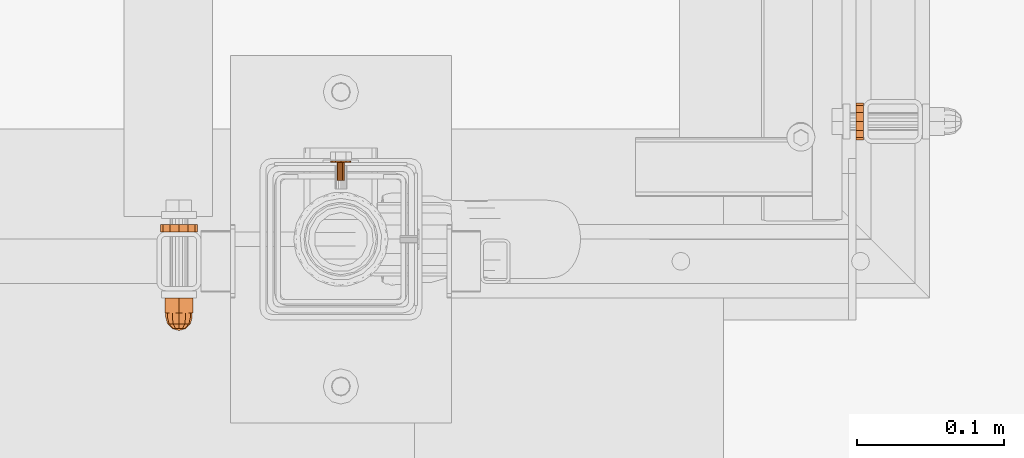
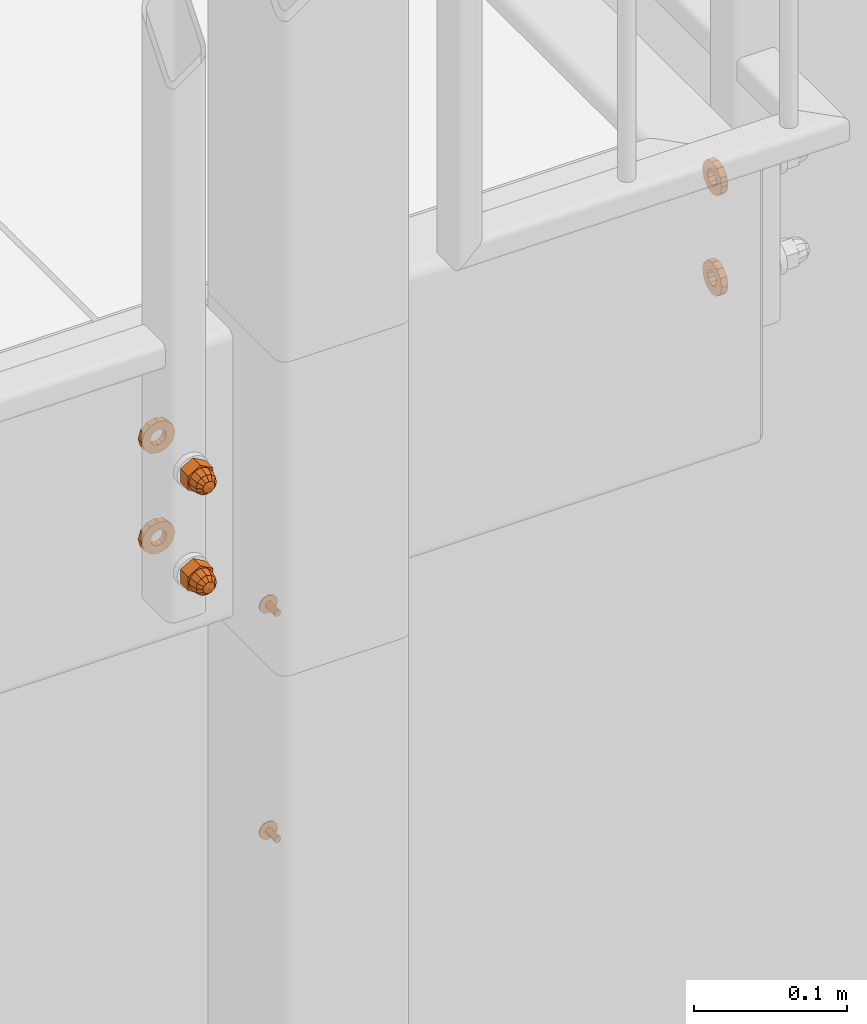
# One storey, part 125 of 162: 8 proxies.
"""IFC2X3 building model written with IfcOpenShell, lengths in millimetres."""

from ifc_helpers import new_model, entity, si_unit, converted_unit, origin_with_axes, place, context, project, spatial, faceted_brep, material, element, save


model = new_model("IFC2X3")

# Units and contexts
model_context = context("Model", 3, precision=1e-09, world=origin_with_axes())
ifc_project = project(units=[si_unit("LENGTHUNIT", "METRE", prefix="MILLI"), si_unit("AREAUNIT", "SQUARE_METRE"), si_unit("VOLUMEUNIT", "CUBIC_METRE"), converted_unit("PLANEANGLEUNIT", "DEGREE", entity("IfcPlaneAngleMeasure", 0.01745329), si_unit("PLANEANGLEUNIT", "RADIAN"), dimensions=[0, 0, 0, 0, 0, 0, 0])], contexts=[model_context])

# Site, building, storey
site_placement = place(None, origin_with_axes())
site = spatial("IfcSite", under=ifc_project, at=site_placement, Name="Hermannstra?e 1a, 60318 Frankfurt", CompositionType="ELEMENT")
building_placement = place(site_placement, origin_with_axes())
building = spatial("IfcBuilding", under=site, at=building_placement, Name="Struktur 1", CompositionType="ELEMENT")
storey_placement = place(building_placement, origin_with_axes())
storey = spatial("IfcBuildingStorey", under=building, at=storey_placement, Name="Default Storey", CompositionType="ELEMENT", Elevation=0.0)

# Proxies
ifc_material = material(Name="Kein")
proxy_1_placement = place(None, origin_with_axes())
element("IfcBuildingElementProxy", 1, at=proxy_1_placement, inside=storey, material=ifc_material, ObjectType="-", context=model_context, shape_type="Brep", body=[
    faceted_brep([(5466.30936482, 1582.609373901, 7340.0), (5466.30936482, 1583.609373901, 7340.0), (5467.247186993, 1583.609373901, 7336.5), (5467.247186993, 1582.609373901, 7336.5), (5467.247186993, 1582.609373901, 7343.5), (5467.247186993, 1583.609373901, 7343.5), (5476.80936482, 1583.609373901, 7346.062177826), (5479.371542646, 1583.609373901, 7343.5), (5480.30936482, 1583.609373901, 7340.0), (5479.371542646, 1583.609373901, 7336.5), (5476.80936482, 1583.609373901, 7333.937822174), (5473.30936482, 1583.609373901, 7333.0), (5469.80936482, 1583.609373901, 7333.937822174), (5469.80936482, 1583.609373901, 7346.062177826), (5473.30936482, 1583.609373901, 7347.0), (5476.80936482, 1582.609373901, 7333.937822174), (5479.371542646, 1582.609373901, 7336.5), (5480.30936482, 1582.609373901, 7340.0), (5479.371542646, 1582.609373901, 7343.5), (5476.80936482, 1582.609373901, 7346.062177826), (5473.30936482, 1582.609373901, 7347.0), (5469.80936482, 1582.609373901, 7346.062177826), (5469.80936482, 1582.609373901, 7333.937822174), (5473.30936482, 1582.609373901, 7333.0)], [[[0, 1, 2, 3]], [[1, 0, 4, 5]], [[6, 7, 8, 9, 10, 11, 12, 2, 1, 5, 13, 14]], [[15, 16, 17, 18, 19, 20, 21, 4, 0, 3, 22, 23]], [[3, 2, 12, 22]], [[5, 4, 21, 13]], [[11, 23, 22, 12]], [[10, 15, 23, 11]], [[13, 21, 20, 14]], [[16, 9, 8, 17]], [[15, 10, 9, 16]], [[17, 8, 7, 18]], [[14, 20, 19, 6]], [[18, 7, 6, 19]]]),
    faceted_brep([(5470.80936482, 1570.609373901, 7340.0), (5470.80936482, 1582.609373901, 7340.0), (5471.14430131, 1582.609373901, 7338.75), (5471.14430131, 1570.609373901, 7338.75), (5471.14430131, 1570.609373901, 7341.25), (5471.14430131, 1582.609373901, 7341.25), (5474.55936482, 1582.609373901, 7342.165063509), (5475.474428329, 1582.609373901, 7341.25), (5475.80936482, 1582.609373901, 7340.0), (5475.474428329, 1582.609373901, 7338.75), (5474.55936482, 1582.609373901, 7337.834936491), (5473.30936482, 1582.609373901, 7337.5), (5472.05936482, 1582.609373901, 7337.834936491), (5472.05936482, 1582.609373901, 7342.165063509), (5473.30936482, 1582.609373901, 7342.5), (5474.55936482, 1570.609373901, 7337.834936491), (5475.474428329, 1570.609373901, 7338.75), (5475.80936482, 1570.609373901, 7340.0), (5475.474428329, 1570.609373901, 7341.25), (5474.55936482, 1570.609373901, 7342.165063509), (5473.30936482, 1570.609373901, 7342.5), (5472.05936482, 1570.609373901, 7342.165063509), (5472.05936482, 1570.609373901, 7337.834936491), (5473.30936482, 1570.609373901, 7337.5)], [[[0, 1, 2, 3]], [[1, 0, 4, 5]], [[6, 7, 8, 9, 10, 11, 12, 2, 1, 5, 13, 14]], [[15, 16, 17, 18, 19, 20, 21, 4, 0, 3, 22, 23]], [[3, 2, 12, 22]], [[5, 4, 21, 13]], [[11, 23, 22, 12]], [[10, 15, 23, 11]], [[13, 21, 20, 14]], [[16, 9, 8, 17]], [[15, 10, 9, 16]], [[17, 8, 7, 18]], [[14, 20, 19, 6]], [[18, 7, 6, 19]]]),
])
proxy_2_placement = place(None, origin_with_axes())
element("IfcBuildingElementProxy", 2, at=proxy_2_placement, inside=storey, material=ifc_material, ObjectType="-", context=model_context, shape_type="Brep", body=[
    faceted_brep([(5466.30936482, 1582.609373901, 7520.0), (5466.30936482, 1583.609373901, 7520.0), (5467.247186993, 1583.609373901, 7516.5), (5467.247186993, 1582.609373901, 7516.5), (5467.247186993, 1582.609373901, 7523.5), (5467.247186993, 1583.609373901, 7523.5), (5476.80936482, 1583.609373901, 7526.062177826), (5479.371542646, 1583.609373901, 7523.5), (5480.30936482, 1583.609373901, 7520.0), (5479.371542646, 1583.609373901, 7516.5), (5476.80936482, 1583.609373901, 7513.937822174), (5473.30936482, 1583.609373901, 7513.0), (5469.80936482, 1583.609373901, 7513.937822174), (5469.80936482, 1583.609373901, 7526.062177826), (5473.30936482, 1583.609373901, 7527.0), (5476.80936482, 1582.609373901, 7513.937822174), (5479.371542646, 1582.609373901, 7516.5), (5480.30936482, 1582.609373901, 7520.0), (5479.371542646, 1582.609373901, 7523.5), (5476.80936482, 1582.609373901, 7526.062177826), (5473.30936482, 1582.609373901, 7527.0), (5469.80936482, 1582.609373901, 7526.062177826), (5469.80936482, 1582.609373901, 7513.937822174), (5473.30936482, 1582.609373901, 7513.0)], [[[0, 1, 2, 3]], [[1, 0, 4, 5]], [[6, 7, 8, 9, 10, 11, 12, 2, 1, 5, 13, 14]], [[15, 16, 17, 18, 19, 20, 21, 4, 0, 3, 22, 23]], [[3, 2, 12, 22]], [[5, 4, 21, 13]], [[11, 23, 22, 12]], [[10, 15, 23, 11]], [[13, 21, 20, 14]], [[16, 9, 8, 17]], [[15, 10, 9, 16]], [[17, 8, 7, 18]], [[14, 20, 19, 6]], [[18, 7, 6, 19]]]),
    faceted_brep([(5470.80936482, 1570.609373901, 7520.0), (5470.80936482, 1582.609373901, 7520.0), (5471.14430131, 1582.609373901, 7518.75), (5471.14430131, 1570.609373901, 7518.75), (5471.14430131, 1570.609373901, 7521.25), (5471.14430131, 1582.609373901, 7521.25), (5474.55936482, 1582.609373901, 7522.165063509), (5475.474428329, 1582.609373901, 7521.25), (5475.80936482, 1582.609373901, 7520.0), (5475.474428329, 1582.609373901, 7518.75), (5474.55936482, 1582.609373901, 7517.834936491), (5473.30936482, 1582.609373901, 7517.5), (5472.05936482, 1582.609373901, 7517.834936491), (5472.05936482, 1582.609373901, 7522.165063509), (5473.30936482, 1582.609373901, 7522.5), (5474.55936482, 1570.609373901, 7517.834936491), (5475.474428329, 1570.609373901, 7518.75), (5475.80936482, 1570.609373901, 7520.0), (5475.474428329, 1570.609373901, 7521.25), (5474.55936482, 1570.609373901, 7522.165063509), (5473.30936482, 1570.609373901, 7522.5), (5472.05936482, 1570.609373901, 7522.165063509), (5472.05936482, 1570.609373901, 7517.834936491), (5473.30936482, 1570.609373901, 7517.5)], [[[0, 1, 2, 3]], [[1, 0, 4, 5]], [[6, 7, 8, 9, 10, 11, 12, 2, 1, 5, 13, 14]], [[15, 16, 17, 18, 19, 20, 21, 4, 0, 3, 22, 23]], [[3, 2, 12, 22]], [[5, 4, 21, 13]], [[11, 23, 22, 12]], [[10, 15, 23, 11]], [[13, 21, 20, 14]], [[16, 9, 8, 17]], [[15, 10, 9, 16]], [[17, 8, 7, 18]], [[14, 20, 19, 6]], [[18, 7, 6, 19]]]),
])
proxy_3_placement = place(None, origin_with_axes())
element("IfcBuildingElementProxy", 3, at=proxy_3_placement, inside=storey, material=ifc_material, ObjectType="-", context=model_context, shape_type="Brep", body=[
    faceted_brep([(5352.484047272, 1535.609373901, 7633.75), (5357.05936482, 1535.609373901, 7629.174682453), (5363.30936482, 1535.609373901, 7627.5), (5369.55936482, 1535.609373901, 7629.174682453), (5374.134682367, 1535.609373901, 7633.75), (5375.80936482, 1535.609373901, 7640.0), (5374.134682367, 1535.609373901, 7646.25), (5369.55936482, 1535.609373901, 7650.825317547), (5363.30936482, 1535.609373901, 7652.5), (5357.05936482, 1535.609373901, 7650.825317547), (5352.484047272, 1535.609373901, 7646.25), (5350.80936482, 1535.609373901, 7640.0), (5363.30936482, 1535.609373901, 7634.0), (5360.30936482, 1535.609373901, 7634.803847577), (5358.113212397, 1535.609373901, 7637.0), (5357.30936482, 1535.609373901, 7640.0), (5358.113212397, 1535.609373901, 7643.0), (5360.30936482, 1535.609373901, 7645.196152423), (5363.30936482, 1535.609373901, 7646.0), (5366.30936482, 1535.609373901, 7645.196152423), (5368.505517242, 1535.609373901, 7643.0), (5369.30936482, 1535.609373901, 7640.0), (5368.505517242, 1535.609373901, 7637.0), (5366.30936482, 1535.609373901, 7634.803847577), (5352.484047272, 1540.609373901, 7633.75), (5357.05936482, 1540.609373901, 7629.174682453), (5350.80936482, 1540.609373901, 7640.0), (5352.484047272, 1540.609373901, 7646.25), (5357.05936482, 1540.609373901, 7650.825317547), (5363.30936482, 1540.609373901, 7652.5), (5369.55936482, 1540.609373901, 7650.825317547), (5374.134682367, 1540.609373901, 7646.25), (5375.80936482, 1540.609373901, 7640.0), (5374.134682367, 1540.609373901, 7633.75), (5369.55936482, 1540.609373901, 7629.174682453), (5363.30936482, 1540.609373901, 7627.5), (5358.113212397, 1540.609373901, 7643.0), (5357.30936482, 1540.609373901, 7640.0), (5358.113212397, 1540.609373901, 7637.0), (5360.30936482, 1540.609373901, 7634.803847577), (5363.30936482, 1540.609373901, 7634.0), (5366.30936482, 1540.609373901, 7634.803847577), (5368.505517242, 1540.609373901, 7637.0), (5369.30936482, 1540.609373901, 7640.0), (5368.505517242, 1540.609373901, 7643.0), (5366.30936482, 1540.609373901, 7645.196152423), (5363.30936482, 1540.609373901, 7646.0), (5360.30936482, 1540.609373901, 7645.196152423)], [[[0, 1, 2, 3, 4, 5, 6, 7, 8, 9, 10, 11], [12, 13, 14, 15, 16, 17, 18, 19, 20, 21, 22, 23]], [[0, 24, 25, 1]], [[24, 26, 27, 28, 29, 30, 31, 32, 33, 34, 35, 25], [36, 37, 38, 39, 40, 41, 42, 43, 44, 45, 46, 47]], [[38, 14, 13, 39]], [[24, 0, 11, 26]], [[14, 38, 37, 15]], [[39, 13, 12, 40]], [[1, 25, 35, 2]], [[26, 11, 10, 27]], [[15, 37, 36, 16]], [[40, 12, 23, 41]], [[2, 35, 34, 3]], [[27, 10, 9, 28]], [[16, 36, 47, 17]], [[22, 42, 41, 23]], [[3, 34, 33, 4]], [[42, 22, 21, 43]], [[28, 9, 8, 29]], [[17, 47, 46, 18]], [[20, 44, 43, 21]], [[4, 33, 32, 5]], [[45, 19, 18, 46]], [[44, 20, 19, 45]], [[29, 8, 7, 30]], [[5, 32, 31, 6]], [[30, 7, 6, 31]]]),
])
proxy_4_placement = place(None, origin_with_axes())
element("IfcBuildingElementProxy", 4, at=proxy_4_placement, inside=storey, material=ifc_material, ObjectType="-", context=model_context, shape_type="Brep", body=[
    faceted_brep([(5352.484047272, 1535.609373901, 7713.75), (5357.05936482, 1535.609373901, 7709.174682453), (5363.30936482, 1535.609373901, 7707.5), (5369.55936482, 1535.609373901, 7709.174682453), (5374.134682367, 1535.609373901, 7713.75), (5375.80936482, 1535.609373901, 7720.0), (5374.134682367, 1535.609373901, 7726.25), (5369.55936482, 1535.609373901, 7730.825317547), (5363.30936482, 1535.609373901, 7732.5), (5357.05936482, 1535.609373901, 7730.825317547), (5352.484047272, 1535.609373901, 7726.25), (5350.80936482, 1535.609373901, 7720.0), (5363.30936482, 1535.609373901, 7714.0), (5360.30936482, 1535.609373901, 7714.803847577), (5358.113212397, 1535.609373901, 7717.0), (5357.30936482, 1535.609373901, 7720.0), (5358.113212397, 1535.609373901, 7723.0), (5360.30936482, 1535.609373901, 7725.196152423), (5363.30936482, 1535.609373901, 7726.0), (5366.30936482, 1535.609373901, 7725.196152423), (5368.505517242, 1535.609373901, 7723.0), (5369.30936482, 1535.609373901, 7720.0), (5368.505517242, 1535.609373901, 7717.0), (5366.30936482, 1535.609373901, 7714.803847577), (5352.484047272, 1540.609373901, 7713.75), (5357.05936482, 1540.609373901, 7709.174682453), (5350.80936482, 1540.609373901, 7720.0), (5352.484047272, 1540.609373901, 7726.25), (5357.05936482, 1540.609373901, 7730.825317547), (5363.30936482, 1540.609373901, 7732.5), (5369.55936482, 1540.609373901, 7730.825317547), (5374.134682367, 1540.609373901, 7726.25), (5375.80936482, 1540.609373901, 7720.0), (5374.134682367, 1540.609373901, 7713.75), (5369.55936482, 1540.609373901, 7709.174682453), (5363.30936482, 1540.609373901, 7707.5), (5358.113212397, 1540.609373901, 7723.0), (5357.30936482, 1540.609373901, 7720.0), (5358.113212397, 1540.609373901, 7717.0), (5360.30936482, 1540.609373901, 7714.803847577), (5363.30936482, 1540.609373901, 7714.0), (5366.30936482, 1540.609373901, 7714.803847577), (5368.505517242, 1540.609373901, 7717.0), (5369.30936482, 1540.609373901, 7720.0), (5368.505517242, 1540.609373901, 7723.0), (5366.30936482, 1540.609373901, 7725.196152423), (5363.30936482, 1540.609373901, 7726.0), (5360.30936482, 1540.609373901, 7725.196152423)], [[[0, 1, 2, 3, 4, 5, 6, 7, 8, 9, 10, 11], [12, 13, 14, 15, 16, 17, 18, 19, 20, 21, 22, 23]], [[0, 24, 25, 1]], [[24, 26, 27, 28, 29, 30, 31, 32, 33, 34, 35, 25], [36, 37, 38, 39, 40, 41, 42, 43, 44, 45, 46, 47]], [[38, 14, 13, 39]], [[24, 0, 11, 26]], [[14, 38, 37, 15]], [[39, 13, 12, 40]], [[1, 25, 35, 2]], [[26, 11, 10, 27]], [[15, 37, 36, 16]], [[40, 12, 23, 41]], [[2, 35, 34, 3]], [[27, 10, 9, 28]], [[16, 36, 47, 17]], [[22, 42, 41, 23]], [[3, 34, 33, 4]], [[42, 22, 21, 43]], [[28, 9, 8, 29]], [[17, 47, 46, 18]], [[20, 44, 43, 21]], [[4, 33, 32, 5]], [[45, 19, 18, 46]], [[44, 20, 19, 45]], [[29, 8, 7, 30]], [[5, 32, 31, 6]], [[30, 7, 6, 31]]]),
])
proxy_5_placement = place(None, origin_with_axes())
element("IfcBuildingElementProxy", 5, at=proxy_5_placement, inside=storey, material=ifc_material, ObjectType="-", context=model_context, shape_type="Brep", body=[
    faceted_brep([(5357.30936482, 1490.609373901, 7720.0), (5357.30936482, 1480.609373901, 7720.0), (5358.113212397, 1480.609373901, 7717.0), (5358.113212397, 1490.609373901, 7717.0), (5360.30936482, 1480.609373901, 7714.803847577), (5360.30936482, 1490.609373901, 7714.803847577), (5358.113212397, 1490.609373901, 7723.0), (5358.113212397, 1480.609373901, 7723.0), (5353.829495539, 1490.609373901, 7725.473205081), (5363.30936482, 1490.609373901, 7730.946410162), (5372.7892341, 1490.609373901, 7725.473205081), (5372.7892341, 1490.609373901, 7714.526794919), (5363.30936482, 1490.609373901, 7709.053589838), (5353.829495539, 1490.609373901, 7714.526794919), (5360.30936482, 1490.609373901, 7725.196152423), (5363.30936482, 1490.609373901, 7714.0), (5366.30936482, 1490.609373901, 7714.803847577), (5368.505517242, 1490.609373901, 7717.0), (5369.30936482, 1490.609373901, 7720.0), (5368.505517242, 1490.609373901, 7723.0), (5366.30936482, 1490.609373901, 7725.196152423), (5363.30936482, 1490.609373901, 7726.0), (5363.30936482, 1480.609373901, 7730.946410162), (5353.829495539, 1480.609373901, 7725.473205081), (5353.829495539, 1480.609373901, 7714.526794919), (5363.30936482, 1480.609373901, 7709.053589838), (5372.7892341, 1480.609373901, 7714.526794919), (5372.7892341, 1480.609373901, 7725.473205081), (5360.30936482, 1480.609373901, 7725.196152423), (5363.30936482, 1480.609373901, 7726.0), (5366.30936482, 1480.609373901, 7725.196152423), (5368.505517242, 1480.609373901, 7723.0), (5369.30936482, 1480.609373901, 7720.0), (5368.505517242, 1480.609373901, 7717.0), (5366.30936482, 1480.609373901, 7714.803847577), (5363.30936482, 1480.609373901, 7714.0)], [[[0, 1, 2, 3]], [[3, 2, 4, 5]], [[1, 0, 6, 7]], [[8, 9, 10, 11, 12, 13], [14, 6, 0, 3, 5, 15, 16, 17, 18, 19, 20, 21]], [[22, 23, 24, 25, 26, 27], [1, 7, 28, 29, 30, 31, 32, 33, 34, 35, 4, 2]], [[7, 6, 14, 28]], [[24, 23, 8, 13]], [[5, 4, 35, 15]], [[13, 12, 25, 24]], [[28, 14, 21, 29]], [[23, 22, 9, 8]], [[15, 35, 34, 16]], [[12, 11, 26, 25]], [[29, 21, 20, 30]], [[22, 27, 10, 9]], [[16, 34, 33, 17]], [[27, 26, 11, 10]], [[30, 20, 19, 31]], [[17, 33, 32, 18]], [[31, 19, 18, 32]]]),
    faceted_brep([(5363.30936482, 1480.609373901, 7729.0), (5363.30936482, 1477.609373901, 7729.0), (5367.80936482, 1477.609373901, 7727.794228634), (5367.80936482, 1480.609373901, 7727.794228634), (5358.80936482, 1480.609373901, 7727.794228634), (5358.80936482, 1477.609373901, 7727.794228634), (5355.515136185, 1477.609373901, 7715.5), (5358.80936482, 1477.609373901, 7712.205771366), (5363.30936482, 1477.609373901, 7711.0), (5367.80936482, 1477.609373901, 7712.205771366), (5371.103593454, 1477.609373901, 7715.5), (5372.30936482, 1477.609373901, 7720.0), (5371.103593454, 1477.609373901, 7724.5), (5355.515136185, 1477.609373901, 7724.5), (5354.30936482, 1477.609373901, 7720.0), (5371.103593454, 1480.609373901, 7715.5), (5367.80936482, 1480.609373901, 7712.205771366), (5363.30936482, 1480.609373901, 7711.0), (5358.80936482, 1480.609373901, 7712.205771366), (5355.515136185, 1480.609373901, 7715.5), (5354.30936482, 1480.609373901, 7720.0), (5355.515136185, 1480.609373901, 7724.5), (5371.103593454, 1480.609373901, 7724.5), (5372.30936482, 1480.609373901, 7720.0)], [[[0, 1, 2, 3]], [[1, 0, 4, 5]], [[6, 7, 8, 9, 10, 11, 12, 2, 1, 5, 13, 14]], [[15, 16, 17, 18, 19, 20, 21, 4, 0, 3, 22, 23]], [[3, 2, 12, 22]], [[5, 4, 21, 13]], [[22, 12, 11, 23]], [[13, 21, 20, 14]], [[7, 18, 17, 8]], [[19, 6, 14, 20]], [[18, 7, 6, 19]], [[23, 11, 10, 15]], [[8, 17, 16, 9]], [[15, 10, 9, 16]]]),
    faceted_brep([(5355.515136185, 1477.609373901, 7724.5), (5356.55936482, 1473.109373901, 7723.897114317), (5359.412250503, 1473.109373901, 7726.75), (5358.80936482, 1477.609373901, 7727.794228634), (5371.103593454, 1477.609373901, 7715.5), (5367.80936482, 1477.609373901, 7712.205771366), (5363.30936482, 1477.609373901, 7711.0), (5358.80936482, 1477.609373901, 7712.205771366), (5355.515136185, 1477.609373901, 7715.5), (5354.30936482, 1477.609373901, 7720.0), (5363.30936482, 1477.609373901, 7729.0), (5367.80936482, 1477.609373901, 7727.794228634), (5371.103593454, 1477.609373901, 7724.5), (5372.30936482, 1477.609373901, 7720.0), (5363.30936482, 1473.109373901, 7727.794228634), (5355.515136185, 1473.109373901, 7720.0), (5358.80936482, 1469.815145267, 7720.0), (5359.412250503, 1469.815145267, 7722.25), (5367.206479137, 1473.109373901, 7726.75), (5361.05936482, 1469.815145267, 7723.897114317), (5356.55936482, 1473.109373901, 7716.102885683), (5359.412250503, 1469.815145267, 7717.75), (5363.30936482, 1469.815145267, 7724.5), (5363.30936482, 1468.609373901, 7720.0), (5359.412250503, 1473.109373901, 7713.25), (5361.05936482, 1469.815145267, 7716.102885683), (5363.30936482, 1473.109373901, 7712.205771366), (5370.05936482, 1473.109373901, 7723.897114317), (5365.55936482, 1469.815145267, 7723.897114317), (5363.30936482, 1469.815145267, 7715.5), (5367.206479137, 1473.109373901, 7713.25), (5365.55936482, 1469.815145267, 7716.102885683), (5371.103593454, 1473.109373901, 7720.0), (5367.206479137, 1469.815145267, 7722.25), (5370.05936482, 1473.109373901, 7716.102885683), (5367.206479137, 1469.815145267, 7717.75), (5367.80936482, 1469.815145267, 7720.0)], [[[0, 1, 2, 3]], [[4, 5, 6, 7, 8, 9, 0, 3, 10, 11, 12, 13]], [[3, 2, 14, 10]], [[15, 16, 17, 1]], [[1, 0, 9, 15]], [[10, 14, 18, 11]], [[1, 17, 19, 2]], [[16, 15, 20, 21]], [[2, 19, 22, 14]], [[23, 17, 16]], [[24, 25, 21, 20]], [[23, 16, 21]], [[24, 7, 6, 26]], [[20, 8, 7, 24]], [[15, 9, 8, 20]], [[11, 18, 27, 12]], [[14, 22, 28, 18]], [[23, 19, 17]], [[26, 29, 25, 24]], [[23, 21, 25]], [[23, 22, 19]], [[26, 6, 5, 30]], [[29, 26, 30, 31]], [[23, 25, 29]], [[12, 27, 32, 13]], [[18, 28, 33, 27]], [[23, 28, 22]], [[23, 29, 31]], [[23, 33, 28]], [[30, 5, 4, 34]], [[31, 30, 34, 35]], [[23, 31, 35]], [[13, 32, 34, 4]], [[27, 33, 36, 32]], [[23, 36, 33]], [[23, 35, 36]], [[35, 34, 32, 36]]]),
])
proxy_6_placement = place(None, origin_with_axes())
element("IfcBuildingElementProxy", 6, at=proxy_6_placement, inside=storey, material=ifc_material, ObjectType="-", context=model_context, shape_type="Brep", body=[
    faceted_brep([(5357.30936482, 1490.609373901, 7640.0), (5357.30936482, 1480.609373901, 7640.0), (5358.113212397, 1480.609373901, 7637.0), (5358.113212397, 1490.609373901, 7637.0), (5360.30936482, 1480.609373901, 7634.803847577), (5360.30936482, 1490.609373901, 7634.803847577), (5358.113212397, 1490.609373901, 7643.0), (5358.113212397, 1480.609373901, 7643.0), (5353.829495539, 1490.609373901, 7645.473205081), (5363.30936482, 1490.609373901, 7650.946410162), (5372.7892341, 1490.609373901, 7645.473205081), (5372.7892341, 1490.609373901, 7634.526794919), (5363.30936482, 1490.609373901, 7629.053589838), (5353.829495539, 1490.609373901, 7634.526794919), (5360.30936482, 1490.609373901, 7645.196152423), (5363.30936482, 1490.609373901, 7634.0), (5366.30936482, 1490.609373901, 7634.803847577), (5368.505517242, 1490.609373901, 7637.0), (5369.30936482, 1490.609373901, 7640.0), (5368.505517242, 1490.609373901, 7643.0), (5366.30936482, 1490.609373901, 7645.196152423), (5363.30936482, 1490.609373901, 7646.0), (5363.30936482, 1480.609373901, 7650.946410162), (5353.829495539, 1480.609373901, 7645.473205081), (5353.829495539, 1480.609373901, 7634.526794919), (5363.30936482, 1480.609373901, 7629.053589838), (5372.7892341, 1480.609373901, 7634.526794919), (5372.7892341, 1480.609373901, 7645.473205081), (5360.30936482, 1480.609373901, 7645.196152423), (5363.30936482, 1480.609373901, 7646.0), (5366.30936482, 1480.609373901, 7645.196152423), (5368.505517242, 1480.609373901, 7643.0), (5369.30936482, 1480.609373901, 7640.0), (5368.505517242, 1480.609373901, 7637.0), (5366.30936482, 1480.609373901, 7634.803847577), (5363.30936482, 1480.609373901, 7634.0)], [[[0, 1, 2, 3]], [[3, 2, 4, 5]], [[1, 0, 6, 7]], [[8, 9, 10, 11, 12, 13], [14, 6, 0, 3, 5, 15, 16, 17, 18, 19, 20, 21]], [[22, 23, 24, 25, 26, 27], [1, 7, 28, 29, 30, 31, 32, 33, 34, 35, 4, 2]], [[7, 6, 14, 28]], [[24, 23, 8, 13]], [[5, 4, 35, 15]], [[13, 12, 25, 24]], [[28, 14, 21, 29]], [[23, 22, 9, 8]], [[15, 35, 34, 16]], [[12, 11, 26, 25]], [[29, 21, 20, 30]], [[22, 27, 10, 9]], [[16, 34, 33, 17]], [[27, 26, 11, 10]], [[30, 20, 19, 31]], [[17, 33, 32, 18]], [[31, 19, 18, 32]]]),
    faceted_brep([(5363.30936482, 1480.609373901, 7649.0), (5363.30936482, 1477.609373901, 7649.0), (5367.80936482, 1477.609373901, 7647.794228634), (5367.80936482, 1480.609373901, 7647.794228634), (5358.80936482, 1480.609373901, 7647.794228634), (5358.80936482, 1477.609373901, 7647.794228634), (5355.515136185, 1477.609373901, 7635.5), (5358.80936482, 1477.609373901, 7632.205771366), (5363.30936482, 1477.609373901, 7631.0), (5367.80936482, 1477.609373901, 7632.205771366), (5371.103593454, 1477.609373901, 7635.5), (5372.30936482, 1477.609373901, 7640.0), (5371.103593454, 1477.609373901, 7644.5), (5355.515136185, 1477.609373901, 7644.5), (5354.30936482, 1477.609373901, 7640.0), (5371.103593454, 1480.609373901, 7635.5), (5367.80936482, 1480.609373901, 7632.205771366), (5363.30936482, 1480.609373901, 7631.0), (5358.80936482, 1480.609373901, 7632.205771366), (5355.515136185, 1480.609373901, 7635.5), (5354.30936482, 1480.609373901, 7640.0), (5355.515136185, 1480.609373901, 7644.5), (5371.103593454, 1480.609373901, 7644.5), (5372.30936482, 1480.609373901, 7640.0)], [[[0, 1, 2, 3]], [[1, 0, 4, 5]], [[6, 7, 8, 9, 10, 11, 12, 2, 1, 5, 13, 14]], [[15, 16, 17, 18, 19, 20, 21, 4, 0, 3, 22, 23]], [[3, 2, 12, 22]], [[5, 4, 21, 13]], [[22, 12, 11, 23]], [[13, 21, 20, 14]], [[7, 18, 17, 8]], [[19, 6, 14, 20]], [[18, 7, 6, 19]], [[23, 11, 10, 15]], [[8, 17, 16, 9]], [[15, 10, 9, 16]]]),
    faceted_brep([(5355.515136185, 1477.609373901, 7644.5), (5356.55936482, 1473.109373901, 7643.897114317), (5359.412250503, 1473.109373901, 7646.75), (5358.80936482, 1477.609373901, 7647.794228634), (5371.103593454, 1477.609373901, 7635.5), (5367.80936482, 1477.609373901, 7632.205771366), (5363.30936482, 1477.609373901, 7631.0), (5358.80936482, 1477.609373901, 7632.205771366), (5355.515136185, 1477.609373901, 7635.5), (5354.30936482, 1477.609373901, 7640.0), (5363.30936482, 1477.609373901, 7649.0), (5367.80936482, 1477.609373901, 7647.794228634), (5371.103593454, 1477.609373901, 7644.5), (5372.30936482, 1477.609373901, 7640.0), (5363.30936482, 1473.109373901, 7647.794228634), (5355.515136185, 1473.109373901, 7640.0), (5358.80936482, 1469.815145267, 7640.0), (5359.412250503, 1469.815145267, 7642.25), (5367.206479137, 1473.109373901, 7646.75), (5361.05936482, 1469.815145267, 7643.897114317), (5356.55936482, 1473.109373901, 7636.102885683), (5359.412250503, 1469.815145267, 7637.75), (5363.30936482, 1469.815145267, 7644.5), (5363.30936482, 1468.609373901, 7640.0), (5359.412250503, 1473.109373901, 7633.25), (5361.05936482, 1469.815145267, 7636.102885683), (5363.30936482, 1473.109373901, 7632.205771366), (5370.05936482, 1473.109373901, 7643.897114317), (5365.55936482, 1469.815145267, 7643.897114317), (5363.30936482, 1469.815145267, 7635.5), (5367.206479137, 1473.109373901, 7633.25), (5365.55936482, 1469.815145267, 7636.102885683), (5371.103593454, 1473.109373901, 7640.0), (5367.206479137, 1469.815145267, 7642.25), (5370.05936482, 1473.109373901, 7636.102885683), (5367.206479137, 1469.815145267, 7637.75), (5367.80936482, 1469.815145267, 7640.0)], [[[0, 1, 2, 3]], [[4, 5, 6, 7, 8, 9, 0, 3, 10, 11, 12, 13]], [[3, 2, 14, 10]], [[15, 16, 17, 1]], [[1, 0, 9, 15]], [[10, 14, 18, 11]], [[1, 17, 19, 2]], [[16, 15, 20, 21]], [[2, 19, 22, 14]], [[23, 17, 16]], [[24, 25, 21, 20]], [[23, 16, 21]], [[24, 7, 6, 26]], [[20, 8, 7, 24]], [[15, 9, 8, 20]], [[11, 18, 27, 12]], [[14, 22, 28, 18]], [[23, 19, 17]], [[26, 29, 25, 24]], [[23, 21, 25]], [[23, 22, 19]], [[26, 6, 5, 30]], [[29, 26, 30, 31]], [[23, 25, 29]], [[12, 27, 32, 13]], [[18, 28, 33, 27]], [[23, 28, 22]], [[23, 29, 31]], [[23, 33, 28]], [[30, 5, 4, 34]], [[31, 30, 34, 35]], [[23, 31, 35]], [[13, 32, 34, 4]], [[27, 33, 36, 32]], [[23, 36, 33]], [[23, 35, 36]], [[35, 34, 32, 36]]]),
])
proxy_7_placement = place(None, origin_with_axes())
element("IfcBuildingElementProxy", 7, at=proxy_7_placement, inside=storey, material=ifc_material, ObjectType="-", context=model_context, shape_type="Brep", body=[
    faceted_brep([(5828.30936482, 1599.784056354, 7713.75), (5828.30936482, 1604.359373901, 7709.174682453), (5828.30936482, 1610.609373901, 7707.5), (5828.30936482, 1616.859373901, 7709.174682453), (5828.30936482, 1621.434691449, 7713.75), (5828.30936482, 1623.109373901, 7720.0), (5828.30936482, 1621.434691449, 7726.25), (5828.30936482, 1616.859373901, 7730.825317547), (5828.30936482, 1610.609373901, 7732.5), (5828.30936482, 1604.359373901, 7730.825317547), (5828.30936482, 1599.784056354, 7726.25), (5828.30936482, 1598.109373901, 7720.0), (5828.30936482, 1610.609373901, 7714.0), (5828.30936482, 1607.609373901, 7714.803847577), (5828.30936482, 1605.413221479, 7717.0), (5828.30936482, 1604.609373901, 7720.0), (5828.30936482, 1605.413221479, 7723.0), (5828.30936482, 1607.609373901, 7725.196152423), (5828.30936482, 1610.609373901, 7726.0), (5828.30936482, 1613.609373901, 7725.196152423), (5828.30936482, 1615.805526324, 7723.0), (5828.30936482, 1616.609373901, 7720.0), (5828.30936482, 1615.805526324, 7717.0), (5828.30936482, 1613.609373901, 7714.803847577), (5823.30936482, 1599.784056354, 7713.75), (5823.30936482, 1604.359373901, 7709.174682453), (5823.30936482, 1598.109373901, 7720.0), (5823.30936482, 1599.784056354, 7726.25), (5823.30936482, 1604.359373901, 7730.825317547), (5823.30936482, 1610.609373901, 7732.5), (5823.30936482, 1616.859373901, 7730.825317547), (5823.30936482, 1621.434691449, 7726.25), (5823.30936482, 1623.109373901, 7720.0), (5823.30936482, 1621.434691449, 7713.75), (5823.30936482, 1616.859373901, 7709.174682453), (5823.30936482, 1610.609373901, 7707.5), (5823.30936482, 1605.413221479, 7723.0), (5823.30936482, 1604.609373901, 7720.0), (5823.30936482, 1605.413221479, 7717.0), (5823.30936482, 1607.609373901, 7714.803847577), (5823.30936482, 1610.609373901, 7714.0), (5823.30936482, 1613.609373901, 7714.803847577), (5823.30936482, 1615.805526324, 7717.0), (5823.30936482, 1616.609373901, 7720.0), (5823.30936482, 1615.805526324, 7723.0), (5823.30936482, 1613.609373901, 7725.196152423), (5823.30936482, 1610.609373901, 7726.0), (5823.30936482, 1607.609373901, 7725.196152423)], [[[0, 1, 2, 3, 4, 5, 6, 7, 8, 9, 10, 11], [12, 13, 14, 15, 16, 17, 18, 19, 20, 21, 22, 23]], [[0, 24, 25, 1]], [[24, 26, 27, 28, 29, 30, 31, 32, 33, 34, 35, 25], [36, 37, 38, 39, 40, 41, 42, 43, 44, 45, 46, 47]], [[38, 14, 13, 39]], [[24, 0, 11, 26]], [[14, 38, 37, 15]], [[39, 13, 12, 40]], [[1, 25, 35, 2]], [[26, 11, 10, 27]], [[15, 37, 36, 16]], [[40, 12, 23, 41]], [[2, 35, 34, 3]], [[27, 10, 9, 28]], [[16, 36, 47, 17]], [[22, 42, 41, 23]], [[3, 34, 33, 4]], [[42, 22, 21, 43]], [[28, 9, 8, 29]], [[17, 47, 46, 18]], [[20, 44, 43, 21]], [[4, 33, 32, 5]], [[45, 19, 18, 46]], [[44, 20, 19, 45]], [[29, 8, 7, 30]], [[5, 32, 31, 6]], [[30, 7, 6, 31]]]),
])
proxy_8_placement = place(None, origin_with_axes())
element("IfcBuildingElementProxy", 8, at=proxy_8_placement, inside=storey, material=ifc_material, ObjectType="-", context=model_context, shape_type="Brep", body=[
    faceted_brep([(5828.30936482, 1599.784056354, 7633.75), (5828.30936482, 1604.359373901, 7629.174682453), (5828.30936482, 1610.609373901, 7627.5), (5828.30936482, 1616.859373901, 7629.174682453), (5828.30936482, 1621.434691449, 7633.75), (5828.30936482, 1623.109373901, 7640.0), (5828.30936482, 1621.434691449, 7646.25), (5828.30936482, 1616.859373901, 7650.825317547), (5828.30936482, 1610.609373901, 7652.5), (5828.30936482, 1604.359373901, 7650.825317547), (5828.30936482, 1599.784056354, 7646.25), (5828.30936482, 1598.109373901, 7640.0), (5828.30936482, 1610.609373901, 7634.0), (5828.30936482, 1607.609373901, 7634.803847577), (5828.30936482, 1605.413221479, 7637.0), (5828.30936482, 1604.609373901, 7640.0), (5828.30936482, 1605.413221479, 7643.0), (5828.30936482, 1607.609373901, 7645.196152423), (5828.30936482, 1610.609373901, 7646.0), (5828.30936482, 1613.609373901, 7645.196152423), (5828.30936482, 1615.805526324, 7643.0), (5828.30936482, 1616.609373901, 7640.0), (5828.30936482, 1615.805526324, 7637.0), (5828.30936482, 1613.609373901, 7634.803847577), (5823.30936482, 1599.784056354, 7633.75), (5823.30936482, 1604.359373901, 7629.174682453), (5823.30936482, 1598.109373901, 7640.0), (5823.30936482, 1599.784056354, 7646.25), (5823.30936482, 1604.359373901, 7650.825317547), (5823.30936482, 1610.609373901, 7652.5), (5823.30936482, 1616.859373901, 7650.825317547), (5823.30936482, 1621.434691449, 7646.25), (5823.30936482, 1623.109373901, 7640.0), (5823.30936482, 1621.434691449, 7633.75), (5823.30936482, 1616.859373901, 7629.174682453), (5823.30936482, 1610.609373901, 7627.5), (5823.30936482, 1605.413221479, 7643.0), (5823.30936482, 1604.609373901, 7640.0), (5823.30936482, 1605.413221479, 7637.0), (5823.30936482, 1607.609373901, 7634.803847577), (5823.30936482, 1610.609373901, 7634.0), (5823.30936482, 1613.609373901, 7634.803847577), (5823.30936482, 1615.805526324, 7637.0), (5823.30936482, 1616.609373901, 7640.0), (5823.30936482, 1615.805526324, 7643.0), (5823.30936482, 1613.609373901, 7645.196152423), (5823.30936482, 1610.609373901, 7646.0), (5823.30936482, 1607.609373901, 7645.196152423)], [[[0, 1, 2, 3, 4, 5, 6, 7, 8, 9, 10, 11], [12, 13, 14, 15, 16, 17, 18, 19, 20, 21, 22, 23]], [[0, 24, 25, 1]], [[24, 26, 27, 28, 29, 30, 31, 32, 33, 34, 35, 25], [36, 37, 38, 39, 40, 41, 42, 43, 44, 45, 46, 47]], [[38, 14, 13, 39]], [[24, 0, 11, 26]], [[14, 38, 37, 15]], [[39, 13, 12, 40]], [[1, 25, 35, 2]], [[26, 11, 10, 27]], [[15, 37, 36, 16]], [[40, 12, 23, 41]], [[2, 35, 34, 3]], [[27, 10, 9, 28]], [[16, 36, 47, 17]], [[22, 42, 41, 23]], [[3, 34, 33, 4]], [[42, 22, 21, 43]], [[28, 9, 8, 29]], [[17, 47, 46, 18]], [[20, 44, 43, 21]], [[4, 33, 32, 5]], [[45, 19, 18, 46]], [[44, 20, 19, 45]], [[29, 8, 7, 30]], [[5, 32, 31, 6]], [[30, 7, 6, 31]]]),
])

save(model, "model.ifc")
